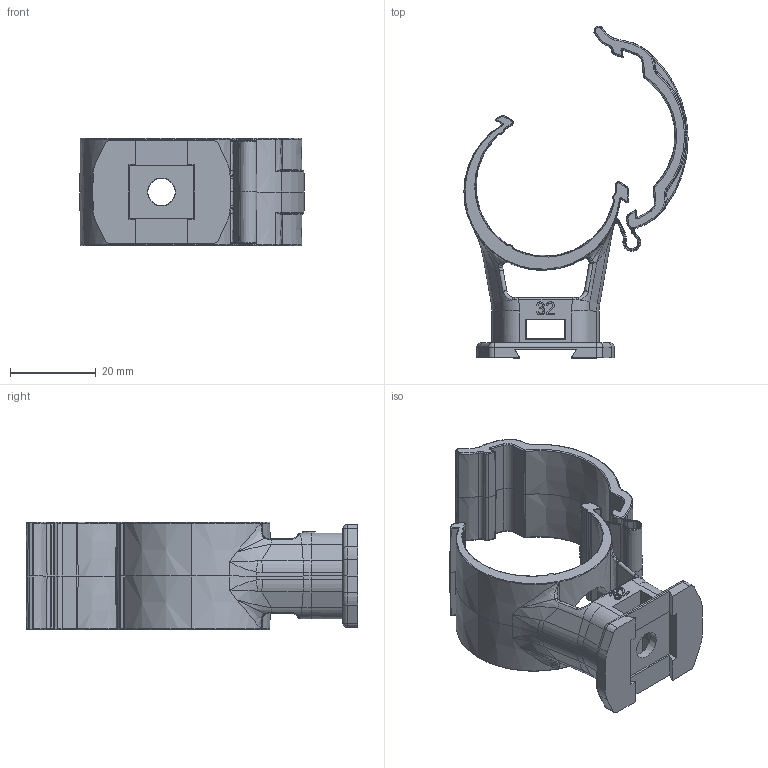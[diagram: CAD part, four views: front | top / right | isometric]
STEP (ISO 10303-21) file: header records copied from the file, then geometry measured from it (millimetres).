
FILE_DESCRIPTION (( 'STEP AP214' ), '1' );
FILE_NAME ('908150059J900 ø32_definitivo.STEP', '2013-02-25T08:41:55', ( '' ), ( '' ), 'SwSTEP 2.0', 'SolidWorks 2012', '' );
FILE_SCHEMA (( 'AUTOMOTIVE_DESIGN' ));
Length unit declared in the file: millimetre
Products named in the file (1): 908150059J900 ø32_definitivo
Bounding box: 52.3 x 77.38 x 25 mm (x, y, z)
Volume: 15459 mm3; surface area: 12225 mm2
Topology: 1 solids, 1 shells, 746 faces, 1782 edges, 1014 vertices
Faces by surface type: bspline 267, plane 143, cylinder 134, torus 104, cone 94, sphere 4
Entity records: 33837 total; most frequent: CARTESIAN_POINT 11752, ORIENTED_EDGE 3520, DIRECTION 2707, EDGE_CURVE 1760, AXIS2_PLACEMENT_3D 1086, VERTEX_POINT 1014, EDGE_LOOP 754, FACE_OUTER_BOUND 746
